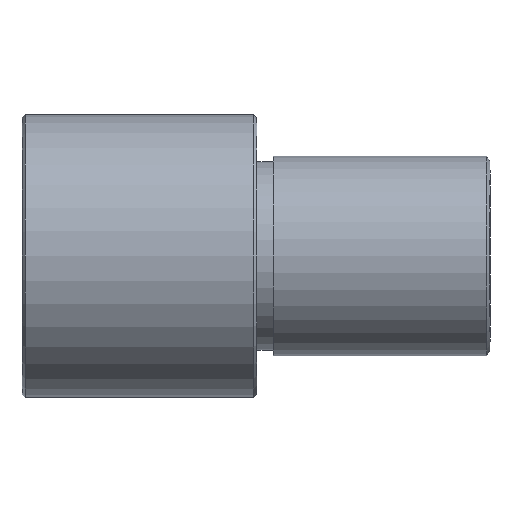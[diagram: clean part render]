
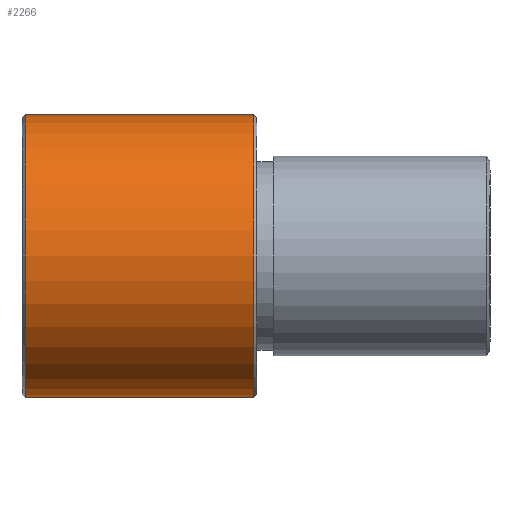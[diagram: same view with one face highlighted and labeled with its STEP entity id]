
A CAD part, front view. The second image highlights one B-rep face of the part: STEP entity #2266.
In plain terms, the highlighted cylindrical face has radius 8.5 mm (diameter 17 mm), a partial arc.
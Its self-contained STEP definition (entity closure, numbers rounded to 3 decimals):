
#55 = EDGE_CURVE ( 'NONE', #1415, #1756, #2062, .T. ) ;
#137 = CARTESIAN_POINT ( 'NONE',  ( -33.062, 0., -8.5 ) ) ;
#183 = DIRECTION ( 'NONE',  ( -1., 0., 0. ) ) ;
#269 = ORIENTED_EDGE ( 'NONE', *, *, #506, .F. ) ;
#374 = CARTESIAN_POINT ( 'NONE',  ( -34.762, 0., -8.5 ) ) ;
#416 = CARTESIAN_POINT ( 'NONE',  ( -19.362, 0., 8.5 ) ) ;
#470 = CIRCLE ( 'NONE', #1775, 8.5 ) ;
#506 = EDGE_CURVE ( 'NONE', #1415, #1936, #1714, .T. ) ;
#526 = VERTEX_POINT ( 'NONE', #697 ) ;
#536 = EDGE_CURVE ( 'NONE', #1756, #526, #1219, .T. ) ;
#601 = ORIENTED_EDGE ( 'NONE', *, *, #2164, .F. ) ;
#697 = CARTESIAN_POINT ( 'NONE',  ( -33.062, 0., 8.5 ) ) ;
#725 = CARTESIAN_POINT ( 'NONE',  ( -34.762, 0., 0. ) ) ;
#751 = EDGE_LOOP ( 'NONE', ( #269, #918, #846, #601 ) ) ;
#776 = DIRECTION ( 'NONE',  ( -1., 0., 0. ) ) ;
#846 = ORIENTED_EDGE ( 'NONE', *, *, #536, .T. ) ;
#896 = DIRECTION ( 'NONE',  ( 0., 0., 1. ) ) ;
#918 = ORIENTED_EDGE ( 'NONE', *, *, #55, .T. ) ;
#1073 = CYLINDRICAL_SURFACE ( 'NONE', #1177, 8.5 ) ;
#1104 = CARTESIAN_POINT ( 'NONE',  ( -19.362, 0., 0. ) ) ;
#1163 = VECTOR ( 'NONE', #1441, 1000. ) ;
#1177 = AXIS2_PLACEMENT_3D ( 'NONE', #725, #183, #896 ) ;
#1219 = LINE ( 'NONE', #2282, #1163 ) ;
#1235 = VECTOR ( 'NONE', #2315, 1000. ) ;
#1415 = VERTEX_POINT ( 'NONE', #1765 ) ;
#1441 = DIRECTION ( 'NONE',  ( -1., 0., 0. ) ) ;
#1502 = DIRECTION ( 'NONE',  ( 0., 0., 1. ) ) ;
#1648 = DIRECTION ( 'NONE',  ( -1., 0., 0. ) ) ;
#1714 = LINE ( 'NONE', #374, #1235 ) ;
#1756 = VERTEX_POINT ( 'NONE', #416 ) ;
#1765 = CARTESIAN_POINT ( 'NONE',  ( -19.362, 0., -8.5 ) ) ;
#1775 = AXIS2_PLACEMENT_3D ( 'NONE', #1850, #1648, #1839 ) ;
#1794 = FACE_OUTER_BOUND ( 'NONE', #751, .T. ) ;
#1839 = DIRECTION ( 'NONE',  ( 0., 0., 1. ) ) ;
#1850 = CARTESIAN_POINT ( 'NONE',  ( -33.062, 0., 0. ) ) ;
#1936 = VERTEX_POINT ( 'NONE', #137 ) ;
#2062 = CIRCLE ( 'NONE', #2273, 8.5 ) ;
#2164 = EDGE_CURVE ( 'NONE', #1936, #526, #470, .T. ) ;
#2266 = ADVANCED_FACE ( 'NONE', ( #1794 ), #1073, .T. ) ;
#2273 = AXIS2_PLACEMENT_3D ( 'NONE', #1104, #776, #1502 ) ;
#2282 = CARTESIAN_POINT ( 'NONE',  ( -34.762, 0., 8.5 ) ) ;
#2315 = DIRECTION ( 'NONE',  ( -1., 0., 0. ) ) ;
